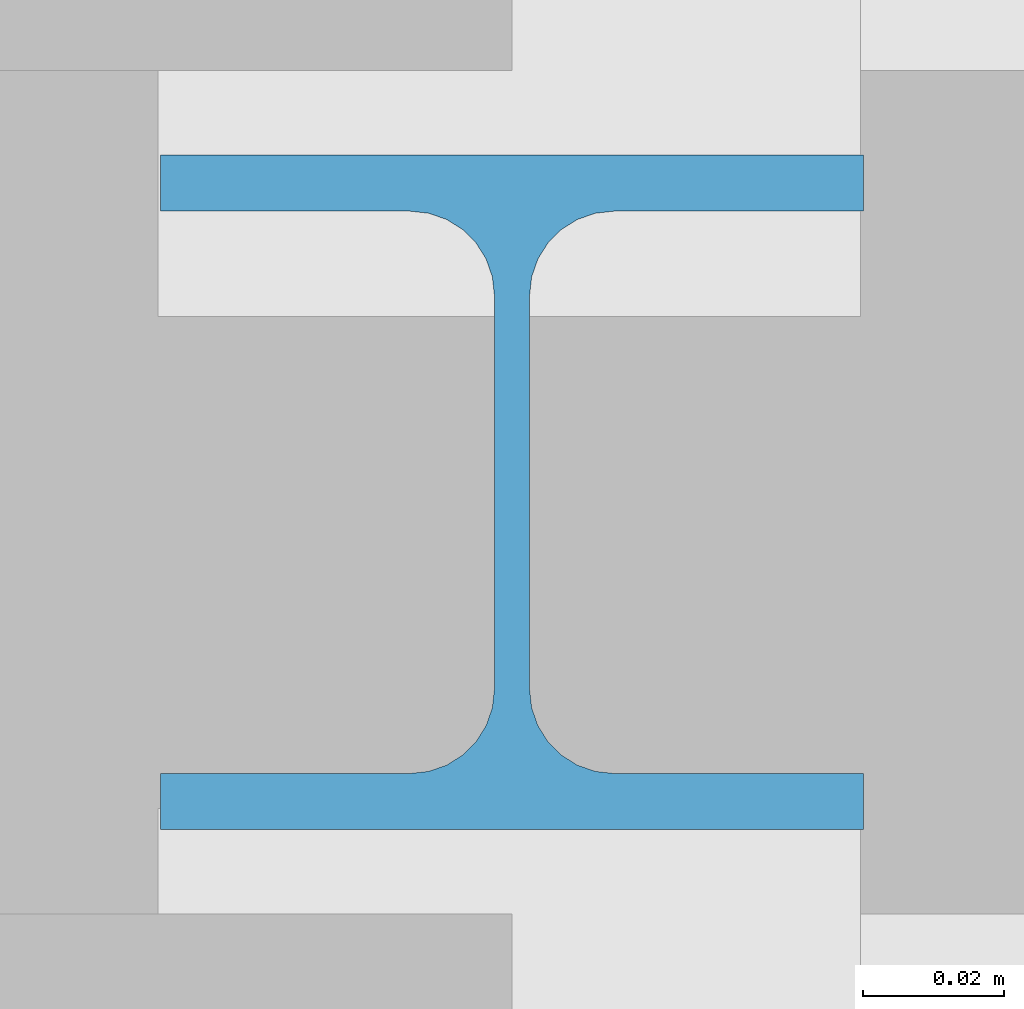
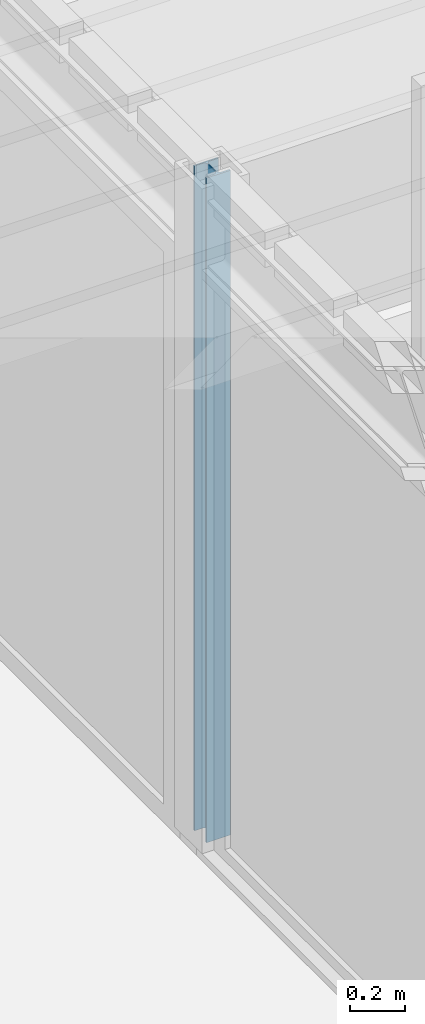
# One storey, part 5 of 28: 1 member.
"""IFC4X3_ADD2 building model written with IfcOpenShell, lengths in metres."""

from ifc_helpers import new_model, si_unit, direction, frame, origin_with_axes, origin_2d_with_axis, place, context, subcontext, project, spatial, i_section, extrude, material, element, save


model = new_model("IFC4X3_ADD2")

# Units and contexts
model_context = context("Model", 3, precision=1e-05, world=origin_with_axes(), true_north=direction((0.0, 1.0)))
body_context = subcontext(model_context, "Body", "Model", "MODEL_VIEW")
ifc_project = project(units=[si_unit("LENGTHUNIT", "METRE"), si_unit("AREAUNIT", "SQUARE_METRE"), si_unit("VOLUMEUNIT", "CUBIC_METRE"), si_unit("PLANEANGLEUNIT", "RADIAN"), si_unit("TIMEUNIT", "SECOND"), si_unit("MASSUNIT", "GRAM")], contexts=[model_context])

# Site, building, storey
site_placement = place(None, origin_with_axes())
site = spatial("IfcSite", under=ifc_project, at=site_placement, Name="Site", CompositionType="ELEMENT")
building_placement = place(site_placement, origin_with_axes())
building = spatial("IfcBuilding", under=site, at=building_placement, Name="Default Building")
storey_placement = place(building_placement, frame((0.0, 0.0, -0.08), z_axis=(0.0, 0.0, 1.0), x_axis=(1.0, 0.0, 0.0)))
storey = spatial("IfcBuildingStorey", under=building, at=storey_placement, Name="Gruendung", Elevation=-0.08)

# Member
ifc_material = material(Name="Default")
member_placement = place(storey_placement, frame((19.0, 9.500000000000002, 0.08), z_axis=(0.0, 0.0, 1.0), x_axis=(-1.0, 0.0, 0.0)))
element("IfcMember", 1, at=member_placement, inside=storey, material=ifc_material, Name="Wide Flange", ObjectType="HEA 100", context=body_context, shape_type="SweptSolid", body=[
    extrude(i_section(OverallWidth=0.1, OverallDepth=0.096, WebThickness=0.005, FlangeThickness=0.008, FilletRadius=0.012, at=origin_2d_with_axis()), origin_with_axes(), (0.0, 0.0, 1.0), 2.96),
])

save(model, "model.ifc")
